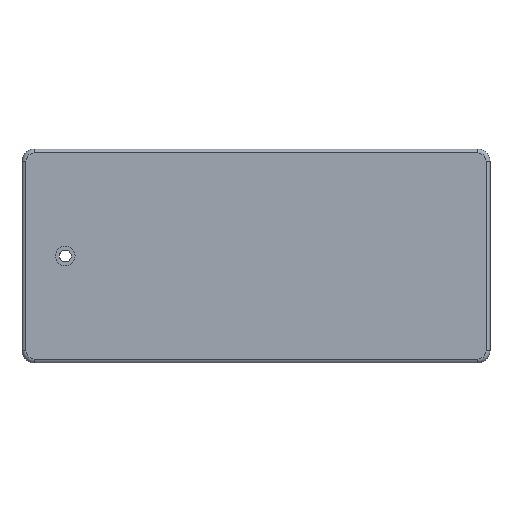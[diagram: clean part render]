
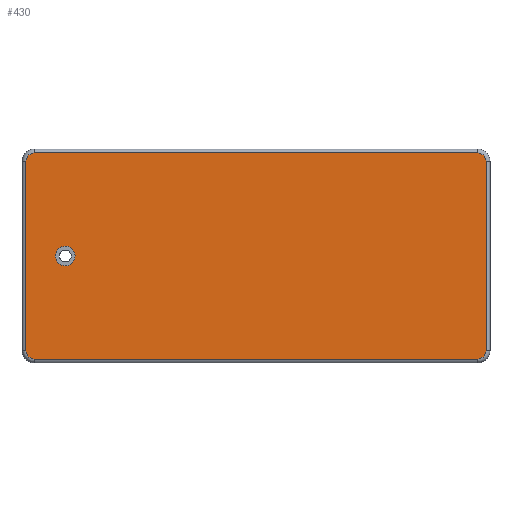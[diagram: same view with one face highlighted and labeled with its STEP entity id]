
A CAD part, front view. The second image highlights one B-rep face of the part: STEP entity #430.
In plain terms, the highlighted planar face has unit normal (0, -1, 0).
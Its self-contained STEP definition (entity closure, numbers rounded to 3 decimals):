
#3 = DIRECTION ( 'NONE',  ( 0., 0., -1. ) ) ;
#26 = DIRECTION ( 'NONE',  ( 0., -1., 0. ) ) ;
#36 = ORIENTED_EDGE ( 'NONE', *, *, #1221, .T. ) ;
#39 = CARTESIAN_POINT ( 'NONE',  ( -48.5, 0., 0. ) ) ;
#70 = DIRECTION ( 'NONE',  ( 0., 0., -1. ) ) ;
#81 = DIRECTION ( 'NONE',  ( 0., -1., 0. ) ) ;
#86 = CARTESIAN_POINT ( 'NONE',  ( -48.5, 0., 0. ) ) ;
#88 = EDGE_CURVE ( 'NONE', #138, #1298, #901, .T. ) ;
#112 = VERTEX_POINT ( 'NONE', #972 ) ;
#135 = VECTOR ( 'NONE', #393, 1000. ) ;
#138 = VERTEX_POINT ( 'NONE', #1199 ) ;
#149 = CARTESIAN_POINT ( 'NONE',  ( 56.35, 0., 26.195 ) ) ;
#164 = DIRECTION ( 'NONE',  ( 0., 0., 1. ) ) ;
#176 = DIRECTION ( 'NONE',  ( 0., 1., 0. ) ) ;
#188 = CARTESIAN_POINT ( 'NONE',  ( 0., 0., 0. ) ) ;
#212 = FACE_OUTER_BOUND ( 'NONE', #1129, .T. ) ;
#225 = ORIENTED_EDGE ( 'NONE', *, *, #765, .T. ) ;
#256 = CIRCLE ( 'NONE', #1248, 2.15 ) ;
#275 = EDGE_CURVE ( 'NONE', #1236, #1354, #256, .T. ) ;
#277 = LINE ( 'NONE', #1024, #135 ) ;
#301 = EDGE_CURVE ( 'NONE', #1298, #906, #598, .T. ) ;
#305 = DIRECTION ( 'NONE',  ( 0., 0., -1. ) ) ;
#325 = AXIS2_PLACEMENT_3D ( 'NONE', #794, #821, #879 ) ;
#343 = PLANE ( 'NONE',  #552 ) ;
#357 = CARTESIAN_POINT ( 'NONE',  ( -58.5, 0., 0. ) ) ;
#358 = ORIENTED_EDGE ( 'NONE', *, *, #1025, .T. ) ;
#359 = CIRCLE ( 'NONE', #1251, 2.15 ) ;
#378 = ORIENTED_EDGE ( 'NONE', *, *, #275, .T. ) ;
#386 = AXIS2_PLACEMENT_3D ( 'NONE', #86, #81, #70 ) ;
#393 = DIRECTION ( 'NONE',  ( -1., 0., 0. ) ) ;
#430 = ADVANCED_FACE ( 'NONE', ( #212, #1385 ), #343, .F. ) ;
#431 = EDGE_CURVE ( 'NONE', #1292, #768, #781, .T. ) ;
#434 = VERTEX_POINT ( 'NONE', #149 ) ;
#443 = EDGE_CURVE ( 'NONE', #768, #1292, #1128, .T. ) ;
#456 = ORIENTED_EDGE ( 'NONE', *, *, #431, .F. ) ;
#552 = AXIS2_PLACEMENT_3D ( 'NONE', #188, #176, #164 ) ;
#557 = EDGE_LOOP ( 'NONE', ( #456, #838 ) ) ;
#560 = CARTESIAN_POINT ( 'NONE',  ( -56.35, 0., 26.195 ) ) ;
#598 = LINE ( 'NONE', #644, #1098 ) ;
#626 = AXIS2_PLACEMENT_3D ( 'NONE', #39, #26, #3 ) ;
#641 = DIRECTION ( 'NONE',  ( 1., 0., 0. ) ) ;
#644 = CARTESIAN_POINT ( 'NONE',  ( 0., 0., -26.195 ) ) ;
#656 = ORIENTED_EDGE ( 'NONE', *, *, #88, .T. ) ;
#659 = ORIENTED_EDGE ( 'NONE', *, *, #301, .T. ) ;
#671 = CARTESIAN_POINT ( 'NONE',  ( -58.5, 0., 24.045 ) ) ;
#672 = AXIS2_PLACEMENT_3D ( 'NONE', #1088, #1085, #1077 ) ;
#695 = DIRECTION ( 'NONE',  ( 0., 0., 1. ) ) ;
#702 = DIRECTION ( 'NONE',  ( 0., -1., 0. ) ) ;
#717 = CARTESIAN_POINT ( 'NONE',  ( -56.35, 0., 24.045 ) ) ;
#742 = CARTESIAN_POINT ( 'NONE',  ( 58.5, 0., 24.045 ) ) ;
#765 = EDGE_CURVE ( 'NONE', #906, #112, #840, .T. ) ;
#768 = VERTEX_POINT ( 'NONE', #1089 ) ;
#781 = CIRCLE ( 'NONE', #386, 2.5 ) ;
#794 = CARTESIAN_POINT ( 'NONE',  ( -56.35, 0., -24.045 ) ) ;
#808 = CARTESIAN_POINT ( 'NONE',  ( 56.35, 0., 24.045 ) ) ;
#821 = DIRECTION ( 'NONE',  ( 0., -1., 0. ) ) ;
#837 = CARTESIAN_POINT ( 'NONE',  ( -56.35, 0., -26.195 ) ) ;
#838 = ORIENTED_EDGE ( 'NONE', *, *, #443, .F. ) ;
#840 = CIRCLE ( 'NONE', #672, 2.15 ) ;
#854 = DIRECTION ( 'NONE',  ( 0., 0., 1. ) ) ;
#879 = DIRECTION ( 'NONE',  ( 0., 0., 1. ) ) ;
#880 = EDGE_CURVE ( 'NONE', #909, #434, #359, .T. ) ;
#882 = DIRECTION ( 'NONE',  ( 0., 0., 1. ) ) ;
#901 = CIRCLE ( 'NONE', #325, 2.15 ) ;
#904 = CARTESIAN_POINT ( 'NONE',  ( -48.5, 0., -2.5 ) ) ;
#906 = VERTEX_POINT ( 'NONE', #1443 ) ;
#909 = VERTEX_POINT ( 'NONE', #742 ) ;
#972 = CARTESIAN_POINT ( 'NONE',  ( 58.5, 0., -24.045 ) ) ;
#1013 = ORIENTED_EDGE ( 'NONE', *, *, #1403, .T. ) ;
#1024 = CARTESIAN_POINT ( 'NONE',  ( 0., 0., 26.195 ) ) ;
#1025 = EDGE_CURVE ( 'NONE', #1354, #138, #1061, .T. ) ;
#1061 = LINE ( 'NONE', #357, #1325 ) ;
#1077 = DIRECTION ( 'NONE',  ( 0., 0., 1. ) ) ;
#1085 = DIRECTION ( 'NONE',  ( 0., -1., 0. ) ) ;
#1088 = CARTESIAN_POINT ( 'NONE',  ( 56.35, 0., -24.045 ) ) ;
#1089 = CARTESIAN_POINT ( 'NONE',  ( -48.5, 0., 2.5 ) ) ;
#1098 = VECTOR ( 'NONE', #641, 1000. ) ;
#1119 = LINE ( 'NONE', #1225, #1406 ) ;
#1128 = CIRCLE ( 'NONE', #626, 2.5 ) ;
#1129 = EDGE_LOOP ( 'NONE', ( #659, #225, #36, #1396, #1013, #378, #358, #656 ) ) ;
#1199 = CARTESIAN_POINT ( 'NONE',  ( -58.5, 0., -24.045 ) ) ;
#1221 = EDGE_CURVE ( 'NONE', #112, #909, #1119, .T. ) ;
#1225 = CARTESIAN_POINT ( 'NONE',  ( 58.5, 0., 0. ) ) ;
#1236 = VERTEX_POINT ( 'NONE', #560 ) ;
#1248 = AXIS2_PLACEMENT_3D ( 'NONE', #717, #702, #695 ) ;
#1251 = AXIS2_PLACEMENT_3D ( 'NONE', #808, #1357, #882 ) ;
#1292 = VERTEX_POINT ( 'NONE', #904 ) ;
#1298 = VERTEX_POINT ( 'NONE', #837 ) ;
#1325 = VECTOR ( 'NONE', #305, 1000. ) ;
#1354 = VERTEX_POINT ( 'NONE', #671 ) ;
#1357 = DIRECTION ( 'NONE',  ( 0., -1., 0. ) ) ;
#1385 = FACE_BOUND ( 'NONE', #557, .T. ) ;
#1396 = ORIENTED_EDGE ( 'NONE', *, *, #880, .T. ) ;
#1403 = EDGE_CURVE ( 'NONE', #434, #1236, #277, .T. ) ;
#1406 = VECTOR ( 'NONE', #854, 1000. ) ;
#1443 = CARTESIAN_POINT ( 'NONE',  ( 56.35, 0., -26.195 ) ) ;
